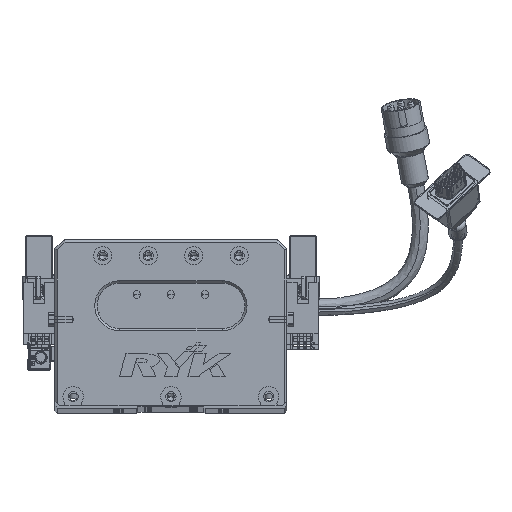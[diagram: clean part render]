
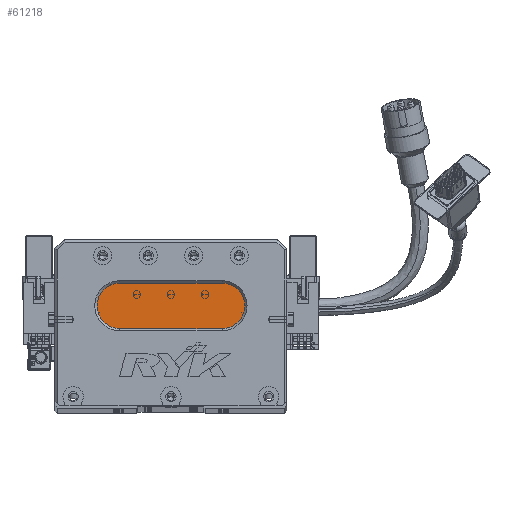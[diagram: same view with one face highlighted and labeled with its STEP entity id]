
A CAD part, top view. The second image highlights one B-rep face of the part: STEP entity #61218.
In plain terms, the highlighted planar face has unit normal (0, 0, 1) as drawn and (0, 0, -1) by its records, which use the part's own axes.
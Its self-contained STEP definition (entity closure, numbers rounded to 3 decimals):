
#1302 = VERTEX_POINT ( 'NONE', #65865 ) ;
#2665 = VECTOR ( 'NONE', #3319, 1000. ) ;
#3319 = DIRECTION ( 'NONE',  ( -1., 0., 0. ) ) ;
#3593 = CIRCLE ( 'NONE', #44419, 10. ) ;
#6876 = DIRECTION ( 'NONE',  ( 0., 0., -1. ) ) ;
#10181 = EDGE_CURVE ( 'NONE', #51427, #1302, #59361, .T. ) ;
#12866 = VERTEX_POINT ( 'NONE', #57859 ) ;
#14036 = AXIS2_PLACEMENT_3D ( 'NONE', #57234, #68886, #52583 ) ;
#14324 = CARTESIAN_POINT ( 'NONE',  ( 73.5, 54., 13. ) ) ;
#18622 = DIRECTION ( 'NONE',  ( -1., 0., 0. ) ) ;
#19048 = CIRCLE ( 'NONE', #44617, 10. ) ;
#20802 = EDGE_LOOP ( 'NONE', ( #40315, #36566, #38657, #62065, #42048 ) ) ;
#29252 = DIRECTION ( 'NONE',  ( 1., 0., 0. ) ) ;
#31312 = CARTESIAN_POINT ( 'NONE',  ( 28.5, 44., 13. ) ) ;
#35447 = VERTEX_POINT ( 'NONE', #62981 ) ;
#36566 = ORIENTED_EDGE ( 'NONE', *, *, #52188, .T. ) ;
#37725 = LINE ( 'NONE', #47674, #2665 ) ;
#38657 = ORIENTED_EDGE ( 'NONE', *, *, #64417, .T. ) ;
#40315 = ORIENTED_EDGE ( 'NONE', *, *, #59507, .T. ) ;
#41831 = DIRECTION ( 'NONE',  ( -1., 0., 0. ) ) ;
#42048 = ORIENTED_EDGE ( 'NONE', *, *, #10181, .T. ) ;
#42120 = AXIS2_PLACEMENT_3D ( 'NONE', #68970, #6876, #18622 ) ;
#43529 = CARTESIAN_POINT ( 'NONE',  ( 73.5, 44., 13. ) ) ;
#44249 = DIRECTION ( 'NONE',  ( 0., 0., -1. ) ) ;
#44419 = AXIS2_PLACEMENT_3D ( 'NONE', #43529, #44249, #49155 ) ;
#44617 = AXIS2_PLACEMENT_3D ( 'NONE', #31312, #64071, #41831 ) ;
#47674 = CARTESIAN_POINT ( 'NONE',  ( 73.5, 34., 13. ) ) ;
#47964 = EDGE_CURVE ( 'NONE', #35447, #51427, #61104, .T. ) ;
#48858 = VECTOR ( 'NONE', #29252, 1000. ) ;
#49155 = DIRECTION ( 'NONE',  ( -1., 0., 0. ) ) ;
#51427 = VERTEX_POINT ( 'NONE', #54085 ) ;
#52188 = EDGE_CURVE ( 'NONE', #12866, #53378, #37725, .T. ) ;
#52209 = PLANE ( 'NONE',  #42120 ) ;
#52583 = DIRECTION ( 'NONE',  ( -1., 0., 0. ) ) ;
#53378 = VERTEX_POINT ( 'NONE', #64789 ) ;
#54085 = CARTESIAN_POINT ( 'NONE',  ( 28.5, 54., 13. ) ) ;
#57234 = CARTESIAN_POINT ( 'NONE',  ( 28.5, 44., 13. ) ) ;
#57859 = CARTESIAN_POINT ( 'NONE',  ( 73.5, 34., 13. ) ) ;
#59361 = LINE ( 'NONE', #14324, #48858 ) ;
#59507 = EDGE_CURVE ( 'NONE', #1302, #12866, #3593, .T. ) ;
#61104 = CIRCLE ( 'NONE', #14036, 10. ) ;
#61218 = ADVANCED_FACE ( 'NONE', ( #67541 ), #52209, .T. ) ;
#62065 = ORIENTED_EDGE ( 'NONE', *, *, #47964, .T. ) ;
#62981 = CARTESIAN_POINT ( 'NONE',  ( 18.5, 44., 13. ) ) ;
#64071 = DIRECTION ( 'NONE',  ( 0., 0., -1. ) ) ;
#64417 = EDGE_CURVE ( 'NONE', #53378, #35447, #19048, .T. ) ;
#64789 = CARTESIAN_POINT ( 'NONE',  ( 28.5, 34., 13. ) ) ;
#65865 = CARTESIAN_POINT ( 'NONE',  ( 73.5, 54., 13. ) ) ;
#67541 = FACE_OUTER_BOUND ( 'NONE', #20802, .T. ) ;
#68886 = DIRECTION ( 'NONE',  ( 0., 0., -1. ) ) ;
#68970 = CARTESIAN_POINT ( 'NONE',  ( 73.5, 44., 13. ) ) ;
